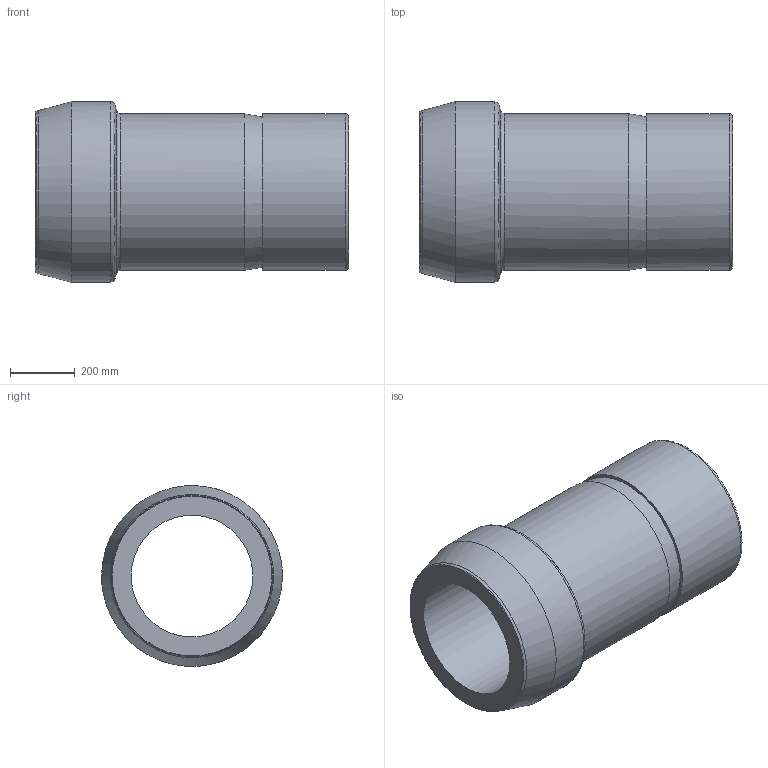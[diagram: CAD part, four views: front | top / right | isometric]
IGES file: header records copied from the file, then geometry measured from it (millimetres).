
Global section: file name: SPC-12; native system: Autodesk Inventor 2016; preprocessor: unknown; author: DESIGNPC2; date: 20151219.131904; units: millimetre
Bounding box: 967.66 x 558.86 x 558.4 mm (x, y, z)
Volume: 82502155.5 mm3; surface area: 2869465.3 mm2
Topology: 1 solids, 1 shells, 15 faces, 48 edges, 36 vertices
Faces by surface type: bspline 15
